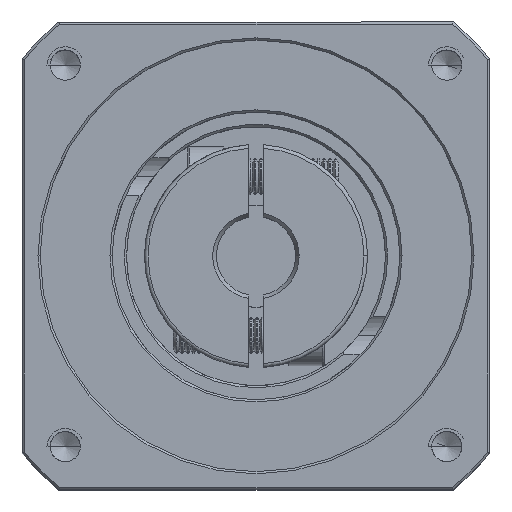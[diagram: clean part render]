
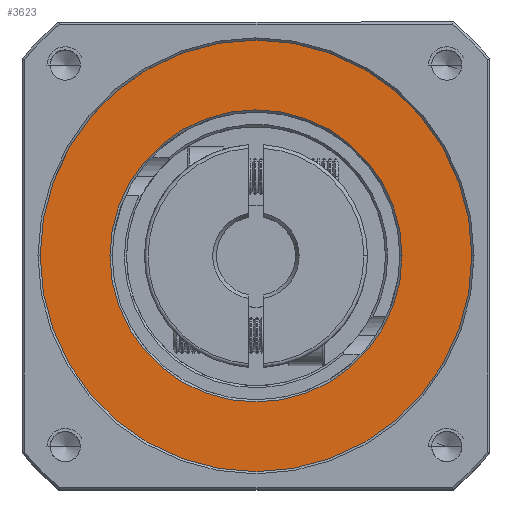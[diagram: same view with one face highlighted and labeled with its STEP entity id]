
A CAD part, top view. The second image highlights one B-rep face of the part: STEP entity #3623.
In plain terms, the highlighted planar face has unit normal (0, 0, 1).
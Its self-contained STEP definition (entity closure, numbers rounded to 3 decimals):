
#3623 = ADVANCED_FACE ( 'NONE', ( #18049, #57503 ), #28145, .T. ) ;
#8533 = CIRCLE ( 'NONE', #23957, 20.3 ) ;
#12207 = CIRCLE ( 'NONE', #91758, 30. ) ;
#13016 = DIRECTION ( 'NONE',  ( 0., 0., 1. ) ) ;
#13821 = CARTESIAN_POINT ( 'NONE',  ( -70.41, 31.886, 11.125 ) ) ;
#13979 = EDGE_LOOP ( 'NONE', ( #31903, #18071 ) ) ;
#14408 = VERTEX_POINT ( 'NONE', #21746 ) ;
#16558 = CARTESIAN_POINT ( 'NONE',  ( -50.11, 31.886, 11.125 ) ) ;
#18049 = FACE_BOUND ( 'NONE', #84480, .T. ) ;
#18071 = ORIENTED_EDGE ( 'NONE', *, *, #79539, .T. ) ;
#20120 = CARTESIAN_POINT ( 'NONE',  ( -90.71, 31.886, 11.125 ) ) ;
#21702 = DIRECTION ( 'NONE',  ( 1., 0., 0. ) ) ;
#21746 = CARTESIAN_POINT ( 'NONE',  ( -40.41, 31.886, 11.125 ) ) ;
#23957 = AXIS2_PLACEMENT_3D ( 'NONE', #45136, #100045, #53048 ) ;
#25332 = CARTESIAN_POINT ( 'NONE',  ( -70.41, 31.886, 11.125 ) ) ;
#26325 = VERTEX_POINT ( 'NONE', #40423 ) ;
#27941 = CARTESIAN_POINT ( 'NONE',  ( -70.41, 31.886, 11.125 ) ) ;
#28145 = PLANE ( 'NONE',  #40537 ) ;
#31903 = ORIENTED_EDGE ( 'NONE', *, *, #101390, .T. ) ;
#33235 = DIRECTION ( 'NONE',  ( 1., 0., 0. ) ) ;
#35845 = DIRECTION ( 'NONE',  ( 1., 0., 0. ) ) ;
#40222 = EDGE_CURVE ( 'NONE', #99426, #50053, #8533, .T. ) ;
#40423 = CARTESIAN_POINT ( 'NONE',  ( -100.41, 31.886, 11.125 ) ) ;
#40537 = AXIS2_PLACEMENT_3D ( 'NONE', #60171, #13016, #68068 ) ;
#43982 = EDGE_CURVE ( 'NONE', #50053, #99426, #91054, .T. ) ;
#45136 = CARTESIAN_POINT ( 'NONE',  ( -70.41, 31.886, 11.125 ) ) ;
#50053 = VERTEX_POINT ( 'NONE', #20120 ) ;
#53048 = DIRECTION ( 'NONE',  ( 1., 0., 0. ) ) ;
#53256 = ORIENTED_EDGE ( 'NONE', *, *, #40222, .T. ) ;
#56138 = AXIS2_PLACEMENT_3D ( 'NONE', #25332, #80347, #33235 ) ;
#57503 = FACE_OUTER_BOUND ( 'NONE', #13979, .T. ) ;
#60171 = CARTESIAN_POINT ( 'NONE',  ( -70.41, 31.886, 11.125 ) ) ;
#68068 = DIRECTION ( 'NONE',  ( 1., 0., 0. ) ) ;
#68900 = DIRECTION ( 'NONE',  ( 0., 0., 1. ) ) ;
#79539 = EDGE_CURVE ( 'NONE', #26325, #14408, #82488, .T. ) ;
#80347 = DIRECTION ( 'NONE',  ( 0., 0., -1. ) ) ;
#82488 = CIRCLE ( 'NONE', #86223, 30. ) ;
#82899 = DIRECTION ( 'NONE',  ( 0., 0., 1. ) ) ;
#84480 = EDGE_LOOP ( 'NONE', ( #53256, #97866 ) ) ;
#86223 = AXIS2_PLACEMENT_3D ( 'NONE', #13821, #68900, #21702 ) ;
#91054 = CIRCLE ( 'NONE', #56138, 20.3 ) ;
#91758 = AXIS2_PLACEMENT_3D ( 'NONE', #27941, #82899, #35845 ) ;
#97866 = ORIENTED_EDGE ( 'NONE', *, *, #43982, .T. ) ;
#99426 = VERTEX_POINT ( 'NONE', #16558 ) ;
#100045 = DIRECTION ( 'NONE',  ( 0., 0., -1. ) ) ;
#101390 = EDGE_CURVE ( 'NONE', #14408, #26325, #12207, .T. ) ;
